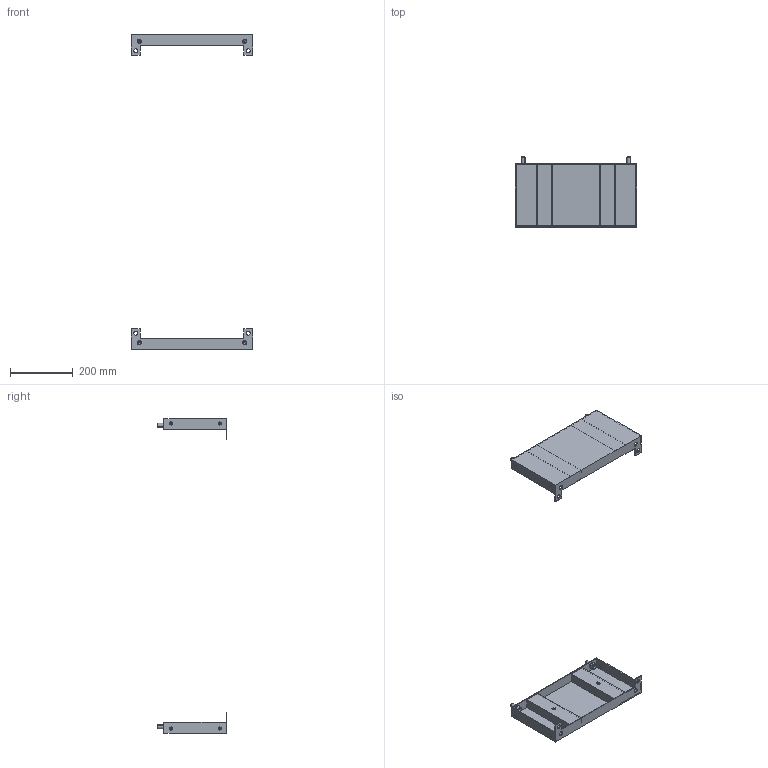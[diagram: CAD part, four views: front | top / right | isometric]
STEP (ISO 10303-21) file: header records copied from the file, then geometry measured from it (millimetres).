
FILE_DESCRIPTION (( 'STEP AP203' ), '1' );
FILE_NAME ('R6PLB45-200 H=1000 SIMPLE.STEP', '2026-07-22T11:13:21', ( '' ), ( '' ), 'SwSTEP 2.0', 'SolidWorks 2022', '' );
FILE_SCHEMA (( 'CONFIG_CONTROL_DESIGN' ));
Length unit declared in the file: millimetre
Products named in the file (8): РГМЦ.RB.3309.00.01.0 simple_-07; 12 DIN 6798 A Zinc; R6PLB45-200 H=1000 SIMPLE; РГМЦ.RB.3309.00.00.0 СБ SIMPLE 04-07_-07; M6 MGS-MPO-0635_straight; M12x25 DIN 912 HX cl.8,8 Zinc_stright; РГМЦ.RB.3309.00.02.0 simple_-01; M6 MGS-MPO-0635_thread
Assembly tree (19 placements, depth 3):
  R6PLB45-200 H=1000 SIMPLE
    РГМЦ.RB.3309.00.00.0 СБ SIMPLE 04-07_-07  x2
      РГМЦ.RB.3309.00.01.0 simple_-07
      M6 MGS-MPO-0635_thread
      РГМЦ.RB.3309.00.02.0 simple_-01
      M6 MGS-MPO-0635_straight
    12 DIN 6798 A Zinc  x4
    M12x25 DIN 912 HX cl.8,8 Zinc_stright  x4
Bounding box: 386.7 x 221.5 x 1000 mm (x, y, z)
Volume: 807326.6 mm3; surface area: 660285.8 mm2
Topology: 26 solids, 26 shells, 1468 faces, 3828 edges, 2188 vertices
Faces by surface type: plane 556, cylinder 544, bspline 152, sphere 144, cone 40, torus 32
Entity records: 13372 total; most frequent: CARTESIAN_POINT 5039, ORIENTED_EDGE 1540, DIRECTION 1409, EDGE_CURVE 770, VERTEX_POINT 482, AXIS2_PLACEMENT_3D 473, LINE 463, VECTOR 463
